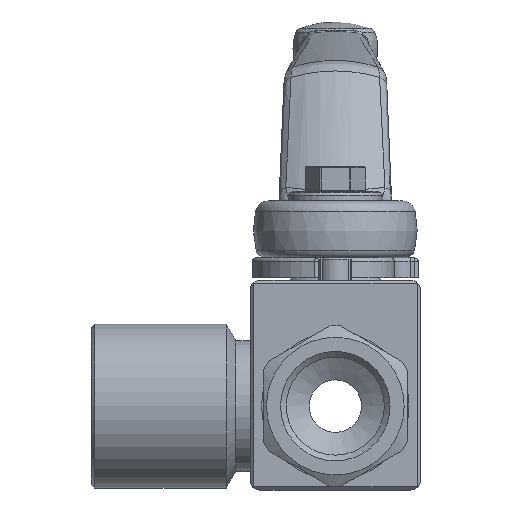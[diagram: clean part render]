
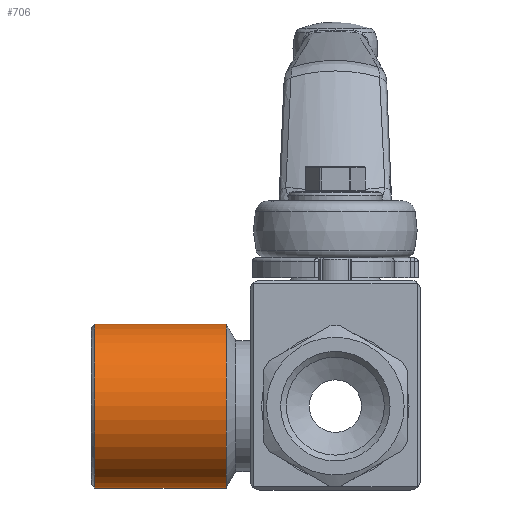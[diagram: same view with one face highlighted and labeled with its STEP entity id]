
A CAD part, front view. The second image highlights one B-rep face of the part: STEP entity #706.
In plain terms, the highlighted cylindrical face has radius 12.5 mm (diameter 25 mm), a full revolution.
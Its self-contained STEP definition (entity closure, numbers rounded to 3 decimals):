
#706 = ADVANCED_FACE( '', ( #1623, #1624 ), #1625, .T. );
#1623 = FACE_OUTER_BOUND( '', #3038, .T. );
#1624 = FACE_OUTER_BOUND( '', #3039, .T. );
#1625 = CYLINDRICAL_SURFACE( '', #3040, 12.5 );
#3038 = EDGE_LOOP( '', ( #5607 ) );
#3039 = EDGE_LOOP( '', ( #5608 ) );
#3040 = AXIS2_PLACEMENT_3D( '', #5609, #5610, #5611 );
#5607 = ORIENTED_EDGE( '', *, *, #8539, .T. );
#5608 = ORIENTED_EDGE( '', *, *, #8540, .T. );
#5609 = CARTESIAN_POINT( '', ( 0., -13.5, 0. ) );
#5610 = DIRECTION( '', ( 0., -1., 0. ) );
#5611 = DIRECTION( '', ( 0., 0., 1. ) );
#8539 = EDGE_CURVE( '', #10027, #10027, #10028, .T. );
#8540 = EDGE_CURVE( '', #10029, #10029, #10030, .T. );
#10027 = VERTEX_POINT( '', #12238 );
#10028 = CIRCLE( '', #12239, 12.5 );
#10029 = VERTEX_POINT( '', #12240 );
#10030 = CIRCLE( '', #12241, 12.5 );
#12238 = CARTESIAN_POINT( '', ( 0., -13., 12.5 ) );
#12239 = AXIS2_PLACEMENT_3D( '', #15168, #15169, #15170 );
#12240 = CARTESIAN_POINT( '', ( 0., 7.057, -12.5 ) );
#12241 = AXIS2_PLACEMENT_3D( '', #15171, #15172, #15173 );
#15168 = CARTESIAN_POINT( '', ( 0., -13., 0. ) );
#15169 = DIRECTION( '', ( 0., 1., 0. ) );
#15170 = DIRECTION( '', ( 0., 0., 1. ) );
#15171 = CARTESIAN_POINT( '', ( 0., 7.057, 0. ) );
#15172 = DIRECTION( '', ( 0., -1., 0. ) );
#15173 = DIRECTION( '', ( 0., 0., -1. ) );
